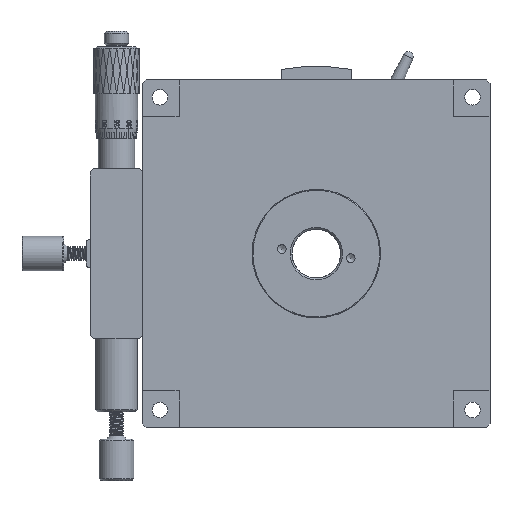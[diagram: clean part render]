
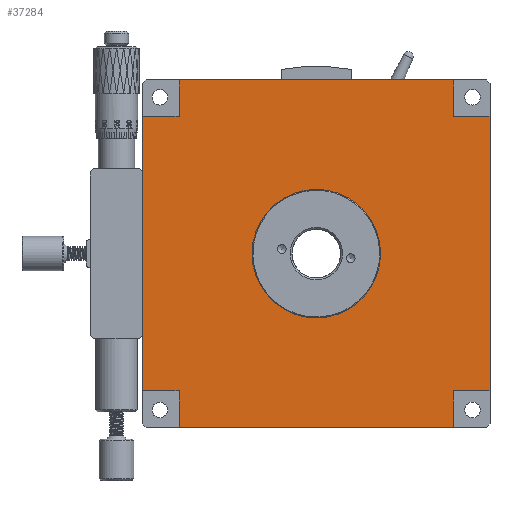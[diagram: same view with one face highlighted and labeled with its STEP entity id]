
A CAD part, front view. The second image highlights one B-rep face of the part: STEP entity #37284.
In plain terms, the highlighted planar face has unit normal (0, -1, 0).
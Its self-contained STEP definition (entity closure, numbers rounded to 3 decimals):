
#1142 = CARTESIAN_POINT ( 'NONE',  ( -39.5, 0.3, 39.5 ) ) ;
#6118 = CARTESIAN_POINT ( 'NONE',  ( -50., 0.3, -39.5 ) ) ;
#7874 = ORIENTED_EDGE ( 'NONE', *, *, #22784, .F. ) ;
#8285 = CARTESIAN_POINT ( 'NONE',  ( 39.5, 0.3, -39.5 ) ) ;
#10215 = CIRCLE ( 'NONE', #132243, 18.5 ) ;
#10730 = VECTOR ( 'NONE', #82563, 1000. ) ;
#15091 = CARTESIAN_POINT ( 'NONE',  ( 50., 0.3, 39.5 ) ) ;
#17985 = VERTEX_POINT ( 'NONE', #1142 ) ;
#18274 = DIRECTION ( 'NONE',  ( 0., 0., 1. ) ) ;
#19037 = CARTESIAN_POINT ( 'NONE',  ( -39.5, 0.3, -50. ) ) ;
#22784 = EDGE_CURVE ( 'NONE', #99909, #99909, #10215, .T. ) ;
#25282 = LINE ( 'NONE', #90892, #81717 ) ;
#26103 = VECTOR ( 'NONE', #75772, 1000. ) ;
#27439 = ORIENTED_EDGE ( 'NONE', *, *, #108986, .F. ) ;
#29337 = VERTEX_POINT ( 'NONE', #152671 ) ;
#30852 = VERTEX_POINT ( 'NONE', #148449 ) ;
#31514 = LINE ( 'NONE', #19037, #95354 ) ;
#31879 = CARTESIAN_POINT ( 'NONE',  ( 39.5, 0.3, -50. ) ) ;
#32980 = VECTOR ( 'NONE', #118101, 1000. ) ;
#35512 = FACE_BOUND ( 'NONE', #125197, .T. ) ;
#36146 = LINE ( 'NONE', #55179, #62700 ) ;
#37284 = ADVANCED_FACE ( 'NONE', ( #35512, #139286 ), #47988, .T. ) ;
#39290 = EDGE_CURVE ( 'NONE', #144048, #138940, #36146, .T. ) ;
#40887 = CARTESIAN_POINT ( 'NONE',  ( 39.5, 0.3, 50. ) ) ;
#41299 = EDGE_LOOP ( 'NONE', ( #109906, #155964, #54765, #145072, #100041, #133576, #131653, #63946, #103955, #57241, #60001, #27439 ) ) ;
#43037 = EDGE_CURVE ( 'NONE', #17985, #29337, #119626, .T. ) ;
#43161 = VERTEX_POINT ( 'NONE', #8285 ) ;
#43814 = DIRECTION ( 'NONE',  ( 0., -1., 0. ) ) ;
#47135 = EDGE_CURVE ( 'NONE', #139198, #128416, #60891, .T. ) ;
#47988 = PLANE ( 'NONE',  #57267 ) ;
#48270 = CARTESIAN_POINT ( 'NONE',  ( -39.5, 0.3, -39.5 ) ) ;
#49016 = LINE ( 'NONE', #52252, #148030 ) ;
#52124 = LINE ( 'NONE', #137757, #148309 ) ;
#52252 = CARTESIAN_POINT ( 'NONE',  ( -50., 0.3, -39.5 ) ) ;
#54765 = ORIENTED_EDGE ( 'NONE', *, *, #59174, .F. ) ;
#55179 = CARTESIAN_POINT ( 'NONE',  ( -50., 0.3, 50. ) ) ;
#55925 = EDGE_CURVE ( 'NONE', #30852, #43161, #25282, .T. ) ;
#57021 = VERTEX_POINT ( 'NONE', #153234 ) ;
#57241 = ORIENTED_EDGE ( 'NONE', *, *, #111473, .T. ) ;
#57267 = AXIS2_PLACEMENT_3D ( 'NONE', #162614, #61280, #113548 ) ;
#59174 = EDGE_CURVE ( 'NONE', #78380, #149453, #31514, .T. ) ;
#59528 = EDGE_CURVE ( 'NONE', #78380, #57021, #124926, .T. ) ;
#60001 = ORIENTED_EDGE ( 'NONE', *, *, #43037, .F. ) ;
#60891 = LINE ( 'NONE', #162230, #26103 ) ;
#61280 = DIRECTION ( 'NONE',  ( 0., -1., 0. ) ) ;
#62700 = VECTOR ( 'NONE', #80076, 1000. ) ;
#63946 = ORIENTED_EDGE ( 'NONE', *, *, #97368, .F. ) ;
#71236 = VECTOR ( 'NONE', #18274, 1000. ) ;
#71278 = VECTOR ( 'NONE', #163139, 1000. ) ;
#74983 = CARTESIAN_POINT ( 'NONE',  ( 0., 0.3, -18.5 ) ) ;
#75772 = DIRECTION ( 'NONE',  ( 0., 0., -1. ) ) ;
#78380 = VERTEX_POINT ( 'NONE', #157186 ) ;
#80076 = DIRECTION ( 'NONE',  ( 0., 0., -1. ) ) ;
#80397 = DIRECTION ( 'NONE',  ( 0., 0., -1. ) ) ;
#81717 = VECTOR ( 'NONE', #89243, 1000. ) ;
#82006 = VECTOR ( 'NONE', #133891, 1000. ) ;
#82563 = DIRECTION ( 'NONE',  ( 0., 0., -1. ) ) ;
#84231 = EDGE_CURVE ( 'NONE', #43161, #57021, #145707, .T. ) ;
#89243 = DIRECTION ( 'NONE',  ( -1., 0., 0. ) ) ;
#90439 = DIRECTION ( 'NONE',  ( -1., 0., 0. ) ) ;
#90892 = CARTESIAN_POINT ( 'NONE',  ( 50., 0.3, -39.5 ) ) ;
#92255 = CARTESIAN_POINT ( 'NONE',  ( -39.5, 0.3, 50. ) ) ;
#95354 = VECTOR ( 'NONE', #97974, 1000. ) ;
#95654 = LINE ( 'NONE', #146331, #82006 ) ;
#97368 = EDGE_CURVE ( 'NONE', #128416, #105184, #155523, .T. ) ;
#97974 = DIRECTION ( 'NONE',  ( 0., 0., 1. ) ) ;
#99909 = VERTEX_POINT ( 'NONE', #74983 ) ;
#100041 = ORIENTED_EDGE ( 'NONE', *, *, #84231, .F. ) ;
#103955 = ORIENTED_EDGE ( 'NONE', *, *, #47135, .F. ) ;
#105184 = VERTEX_POINT ( 'NONE', #132498 ) ;
#107772 = CARTESIAN_POINT ( 'NONE',  ( 0., 0.3, 0. ) ) ;
#108986 = EDGE_CURVE ( 'NONE', #144048, #17985, #131703, .T. ) ;
#109906 = ORIENTED_EDGE ( 'NONE', *, *, #39290, .T. ) ;
#110995 = EDGE_CURVE ( 'NONE', #30852, #105184, #52124, .T. ) ;
#111473 = EDGE_CURVE ( 'NONE', #139198, #29337, #95654, .T. ) ;
#111640 = CARTESIAN_POINT ( 'NONE',  ( -50., 0.3, -50. ) ) ;
#113548 = DIRECTION ( 'NONE',  ( 0., 0., -1. ) ) ;
#118101 = DIRECTION ( 'NONE',  ( 1., 0., 0. ) ) ;
#119626 = LINE ( 'NONE', #92255, #71236 ) ;
#124926 = LINE ( 'NONE', #111640, #71278 ) ;
#125197 = EDGE_LOOP ( 'NONE', ( #7874 ) ) ;
#126134 = CARTESIAN_POINT ( 'NONE',  ( 39.5, 0.3, 39.5 ) ) ;
#128416 = VERTEX_POINT ( 'NONE', #126134 ) ;
#131653 = ORIENTED_EDGE ( 'NONE', *, *, #110995, .T. ) ;
#131703 = LINE ( 'NONE', #144985, #164054 ) ;
#132243 = AXIS2_PLACEMENT_3D ( 'NONE', #107772, #43814, #80397 ) ;
#132498 = CARTESIAN_POINT ( 'NONE',  ( 50., 0.3, 39.5 ) ) ;
#133576 = ORIENTED_EDGE ( 'NONE', *, *, #55925, .F. ) ;
#133891 = DIRECTION ( 'NONE',  ( -1., 0., 0. ) ) ;
#135005 = DIRECTION ( 'NONE',  ( 1., 0., 0. ) ) ;
#135601 = EDGE_CURVE ( 'NONE', #149453, #138940, #49016, .T. ) ;
#137757 = CARTESIAN_POINT ( 'NONE',  ( 50., 0.3, 50. ) ) ;
#138940 = VERTEX_POINT ( 'NONE', #6118 ) ;
#139198 = VERTEX_POINT ( 'NONE', #40887 ) ;
#139286 = FACE_OUTER_BOUND ( 'NONE', #41299, .T. ) ;
#140649 = CARTESIAN_POINT ( 'NONE',  ( -50., 0.3, 39.5 ) ) ;
#144048 = VERTEX_POINT ( 'NONE', #140649 ) ;
#144985 = CARTESIAN_POINT ( 'NONE',  ( -50., 0.3, 39.5 ) ) ;
#145072 = ORIENTED_EDGE ( 'NONE', *, *, #59528, .T. ) ;
#145707 = LINE ( 'NONE', #31879, #10730 ) ;
#146331 = CARTESIAN_POINT ( 'NONE',  ( -50., 0.3, 50. ) ) ;
#148030 = VECTOR ( 'NONE', #90439, 1000. ) ;
#148309 = VECTOR ( 'NONE', #151837, 1000. ) ;
#148449 = CARTESIAN_POINT ( 'NONE',  ( 50., 0.3, -39.5 ) ) ;
#149453 = VERTEX_POINT ( 'NONE', #48270 ) ;
#151837 = DIRECTION ( 'NONE',  ( 0., 0., 1. ) ) ;
#152671 = CARTESIAN_POINT ( 'NONE',  ( -39.5, 0.3, 50. ) ) ;
#153234 = CARTESIAN_POINT ( 'NONE',  ( 39.5, 0.3, -50. ) ) ;
#155523 = LINE ( 'NONE', #15091, #32980 ) ;
#155964 = ORIENTED_EDGE ( 'NONE', *, *, #135601, .F. ) ;
#157186 = CARTESIAN_POINT ( 'NONE',  ( -39.5, 0.3, -50. ) ) ;
#162230 = CARTESIAN_POINT ( 'NONE',  ( 39.5, 0.3, 50. ) ) ;
#162614 = CARTESIAN_POINT ( 'NONE',  ( 0., 0.3, 0. ) ) ;
#163139 = DIRECTION ( 'NONE',  ( 1., 0., 0. ) ) ;
#164054 = VECTOR ( 'NONE', #135005, 1000. ) ;
